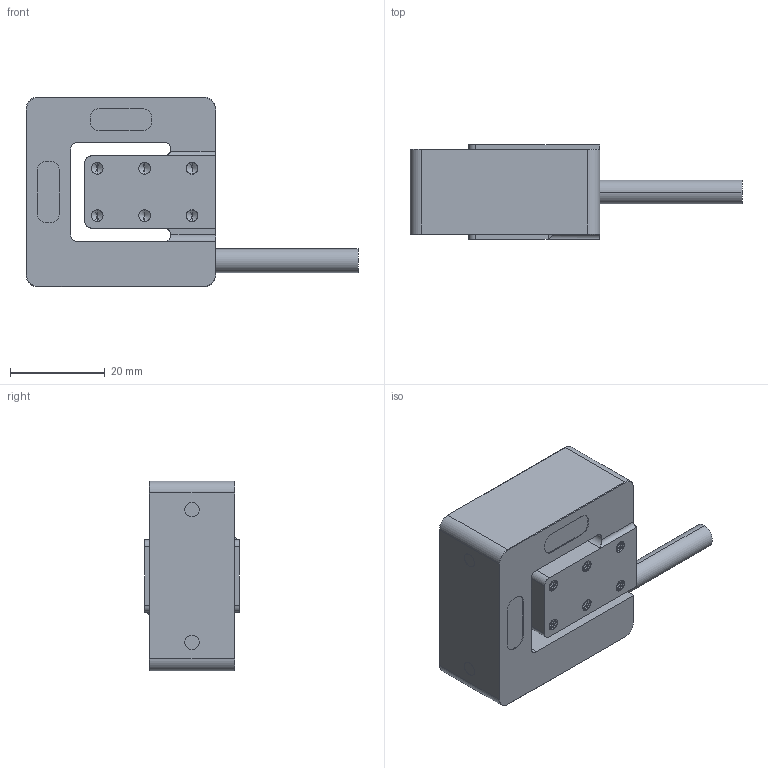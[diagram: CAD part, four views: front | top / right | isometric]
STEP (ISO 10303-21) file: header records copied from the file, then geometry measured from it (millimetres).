
FILE_DESCRIPTION (( 'STEP AP203' ), '1' );
FILE_NAME ('LCM09.STEP', '2024-07-16T03:25:53', ( '' ), ( '' ), 'SwSTEP 2.0', 'SolidWorks 2019', '' );
FILE_SCHEMA (( 'CONFIG_CONTROL_DESIGN' ));
Length unit declared in the file: millimetre
Products named in the file (1): LCM09
Bounding box: 70 x 20 x 40 mm (x, y, z)
Volume: 24813.2 mm3; surface area: 10135.6 mm2
Topology: 1 solids, 1 shells, 467 faces, 1298 edges, 830 vertices
Faces by surface type: cylinder 310, plane 87, bspline 36, cone 34
Entity records: 28317 total; most frequent: CARTESIAN_POINT 18036, ORIENTED_EDGE 2548, DIRECTION 1758, EDGE_CURVE 1274, VERTEX_POINT 830, AXIS2_PLACEMENT_3D 588, LINE 582, VECTOR 582
